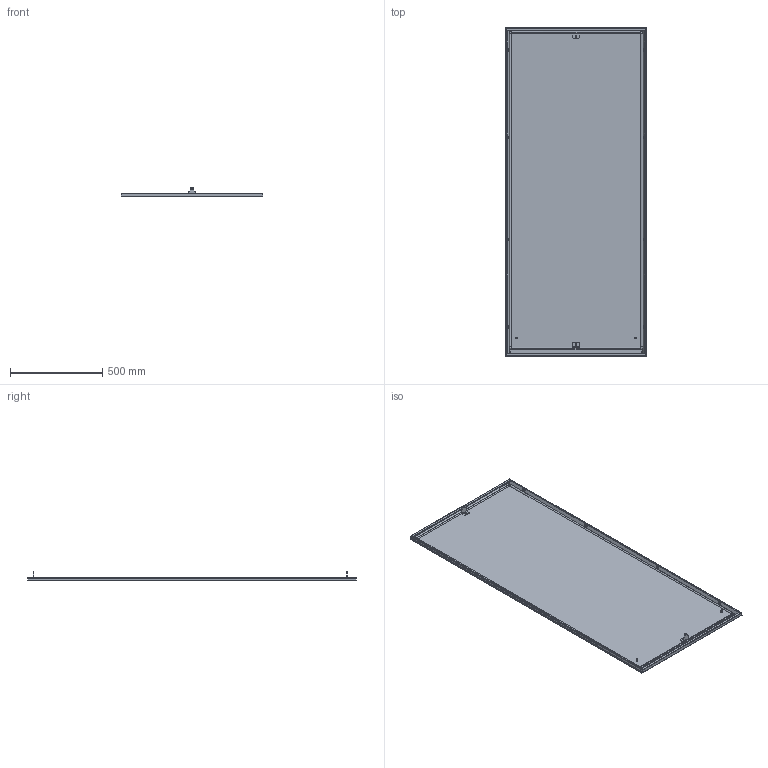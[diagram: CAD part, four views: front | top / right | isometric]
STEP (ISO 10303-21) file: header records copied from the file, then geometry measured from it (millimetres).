
FILE_DESCRIPTION (( 'STEP AP203' ), '1' );
FILE_NAME ('EUFI080180.STEP', '2013-07-10T16:01:35', ( 'CastagnaLuca' ), ( 'Hewlett-Packard Company' ), 'SwSTEP 2.0', 'SolidWorks 2013', '' );
FILE_SCHEMA (( 'CONFIG_CONTROL_DESIGN' ));
Length unit declared in the file: millimetre
Products named in the file (1): EUFI080180
Bounding box: 768 x 1778 x 49 mm (x, y, z)
Volume: 1761338.2 mm3; surface area: 3161992.4 mm2
Topology: 1 solids, 1 shells, 315 faces, 842 edges, 516 vertices
Faces by surface type: plane 103, cylinder 96, cone 60, torus 44, sphere 12
Entity records: 9941 total; most frequent: DIRECTION 1830, CARTESIAN_POINT 1724, ORIENTED_EDGE 1660, EDGE_CURVE 830, AXIS2_PLACEMENT_3D 698, VERTEX_POINT 516, VECTOR 434, LINE 434
